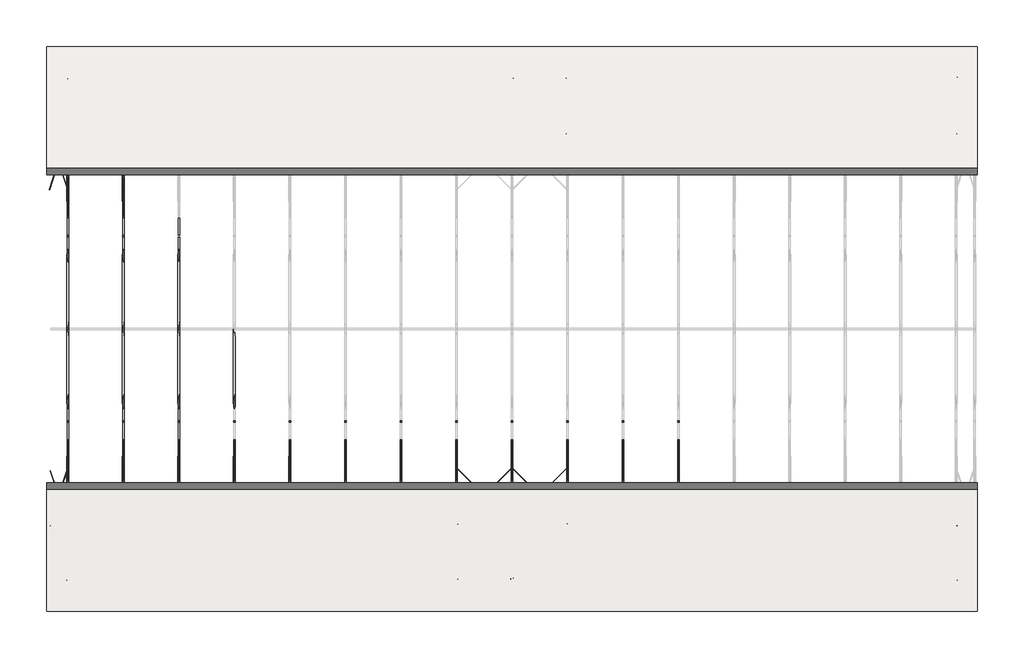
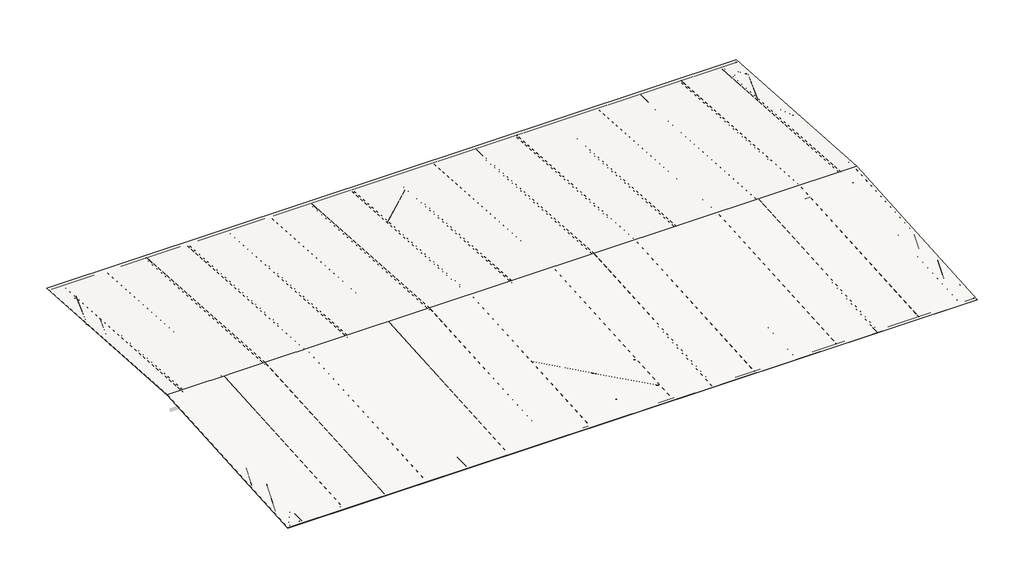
# One storey, part 1 of 3: 70 beams, 20 members, 1 roof.
"""IFC4 building model written with IfcOpenShell, lengths in millimetres."""

from ifc_helpers import new_model, si_unit, frame, origin, place, context, project, spatial, polyline, outline, extrude, transform, mapped, element, save
from components import round_bar_ef4423fe, round_bar_4b02da19, round_bar_197e2d5d, round_bar_92be63b7, round_bar_eebc96e0, round_bar_8cfec21f, round_bar_b8de9798, ub_universal_beams_ub305x165x40_7b27b8ec, ub_universal_beams_ub305x165x40_f28fc4b8, ub_universal_beams_ub305x165x40_3e4cec4f, ub_universal_beams_ub305x165x40_2a322099, round_bars_rb_1_1_2_d9c5baca, round_bars_rb_1_1_2_4c32dfd0, round_bars_rb_1_1_2_c7e7619b, round_bars_rb_1_1_2_0c6969ab, round_bars_rb_1_1_2_333c5343, round_bars_rb_1_1_2_33c0236c, round_bars_rb_1_1_2_9ddfed39, round_bars_rb_1_1_2_87f701cf, round_bars_rb_1_1_2_fe050973, round_bars_rb_1_1_2_3d12519b, round_bars_rb_1_1_2_6c636087, round_bars_rb_1_1_2_94b3812f, round_bars_rb_1_1_2_90346dbf, round_bars_rb_1_1_2_12a21a03, round_bars_rb_1_1_2_74efebb1, round_bars_rb_1_1_2_d1e83ba0

model = new_model("IFC4")

# Units and contexts
model_context = context("Model", 3, world=origin())
ifc_project = project(units=[si_unit("LENGTHUNIT", "METRE", prefix="MILLI")], contexts=[model_context])

# Site, building, storey
site = spatial("IfcSite", under=ifc_project)
building = spatial("IfcBuilding", under=site)
storey = spatial("IfcBuildingStorey", under=building, Name="Donji pojas resetke", Elevation=6000.0)

# Beams
placement = place(None, origin())
round_bar_shape = round_bar_ef4423fe(model_context)
element("IfcBeam", 1, ObjectType="Round Bar : Ispuna resetke", at=placement, inside=storey, context=model_context, shape_type="MappedRepresentation", body=[
    mapped(round_bar_shape, transform((-6936.3249405, -22966.8171651, 7151.7), x_axis=(0.0, 0.0, 1.0), y_axis=(-1.0, 0.0, 0.0), z_axis=(0.0, -1.0, 0.0))),
])
element("IfcBeam", 2, ObjectType="Round Bar : Ispuna resetke", at=placement, inside=storey, context=model_context, shape_type="MappedRepresentation", body=[
    mapped(round_bar_shape, transform((-936.3249405, -22966.8171651, 7151.7), x_axis=(0.0, 0.0, 1.0), y_axis=(-1.0, 0.0, 0.0), z_axis=(0.0, -1.0, 0.0))),
])
element("IfcBeam", 3, ObjectType="Round Bar : Ispuna resetke", at=placement, inside=storey, context=model_context, shape_type="MappedRepresentation", body=[
    mapped(round_bar_shape, transform((5063.6750595, -22966.8171651, 7151.7), x_axis=(0.0, 0.0, 1.0), y_axis=(-1.0, 0.0, 0.0), z_axis=(0.0, -1.0, 0.0))),
])
round_bar_2_shape = round_bar_4b02da19(model_context)
element("IfcBeam", 4, ObjectType="Round Bar : Ispuna resetke", at=placement, inside=storey, context=model_context, shape_type="MappedRepresentation", body=[
    mapped(round_bar_2_shape, transform((-6936.3249405, -12966.8171651, 6818.3666667), x_axis=(0.0, 0.0, 1.0), y_axis=(-1.0, 0.0, 0.0), z_axis=(0.0, -1.0, 0.0))),
])
element("IfcBeam", 5, ObjectType="Round Bar : Ispuna resetke", at=placement, inside=storey, context=model_context, shape_type="MappedRepresentation", body=[
    mapped(round_bar_2_shape, transform((-6936.3249405, -32966.8171651, 6818.3666667), x_axis=(0.0, 0.0, 1.0), y_axis=(-1.0, 0.0, 0.0), z_axis=(0.0, -1.0, 0.0))),
])
element("IfcBeam", 6, ObjectType="Round Bar : Ispuna resetke", at=placement, inside=storey, context=model_context, shape_type="MappedRepresentation", body=[
    mapped(round_bar_2_shape, transform((-936.3249405, -12966.8171651, 6818.3666667), x_axis=(0.0, 0.0, 1.0), y_axis=(-1.0, 0.0, 0.0), z_axis=(0.0, -1.0, 0.0))),
])
element("IfcBeam", 7, ObjectType="Round Bar : Ispuna resetke", at=placement, inside=storey, context=model_context, shape_type="MappedRepresentation", body=[
    mapped(round_bar_2_shape, transform((-936.3249405, -32966.8171651, 6818.3666667), x_axis=(0.0, 0.0, 1.0), y_axis=(-1.0, 0.0, 0.0), z_axis=(0.0, -1.0, 0.0))),
])
element("IfcBeam", 8, ObjectType="Round Bar : Ispuna resetke", at=placement, inside=storey, context=model_context, shape_type="MappedRepresentation", body=[
    mapped(round_bar_2_shape, transform((5063.6750595, -32966.8171651, 6818.3666667), x_axis=(0.0, 0.0, 1.0), y_axis=(-1.0, 0.0, 0.0), z_axis=(0.0, -1.0, 0.0))),
])
element("IfcBeam", 9, ObjectType="Round Bar : Ispuna resetke", at=placement, inside=storey, context=model_context, shape_type="MappedRepresentation", body=[
    mapped(round_bar_2_shape, transform((11063.6750595, -32966.8171651, 6818.3666667), x_axis=(0.0, 0.0, 1.0), y_axis=(-1.0, 0.0, 0.0), z_axis=(0.0, -1.0, 0.0))),
])
element("IfcBeam", 10, ObjectType="Round Bar : Ispuna resetke", at=placement, inside=storey, context=model_context, shape_type="MappedRepresentation", body=[
    mapped(round_bar_2_shape, transform((17063.6750595, -32966.8171651, 6818.3666667), x_axis=(0.0, 0.0, 1.0), y_axis=(-1.0, 0.0, 0.0), z_axis=(0.0, -1.0, 0.0))),
])
element("IfcBeam", 11, ObjectType="Round Bar : Ispuna resetke", at=placement, inside=storey, context=model_context, shape_type="MappedRepresentation", body=[
    mapped(round_bar_2_shape, transform((23063.6750595, -32966.8171651, 6818.3666667), x_axis=(0.0, 0.0, 1.0), y_axis=(-1.0, 0.0, 0.0), z_axis=(0.0, -1.0, 0.0))),
])
element("IfcBeam", 12, ObjectType="Round Bar : Ispuna resetke", at=placement, inside=storey, context=model_context, shape_type="MappedRepresentation", body=[
    mapped(round_bar_2_shape, transform((29063.6750595, -32966.8171651, 6818.3666667), x_axis=(0.0, 0.0, 1.0), y_axis=(-1.0, 0.0, 0.0), z_axis=(0.0, -1.0, 0.0))),
])
element("IfcBeam", 13, ObjectType="Round Bar : Ispuna resetke", at=placement, inside=storey, context=model_context, shape_type="MappedRepresentation", body=[
    mapped(round_bar_2_shape, transform((35063.6750595, -32966.8171651, 6818.3666667), x_axis=(0.0, 0.0, 1.0), y_axis=(-1.0, 0.0, 0.0), z_axis=(0.0, -1.0, 0.0))),
])
element("IfcBeam", 14, ObjectType="Round Bar : Ispuna resetke", at=placement, inside=storey, context=model_context, shape_type="MappedRepresentation", body=[
    mapped(round_bar_2_shape, transform((41063.6750595, -32966.8171651, 6818.3666667), x_axis=(0.0, 0.0, 1.0), y_axis=(-1.0, 0.0, 0.0), z_axis=(0.0, -1.0, 0.0))),
])
element("IfcBeam", 15, ObjectType="Round Bar : Ispuna resetke", at=placement, inside=storey, context=model_context, shape_type="MappedRepresentation", body=[
    mapped(round_bar_2_shape, transform((47063.6750595, -32966.8171651, 6818.3666667), x_axis=(0.0, 0.0, 1.0), y_axis=(-1.0, 0.0, 0.0), z_axis=(0.0, -1.0, 0.0))),
])
element("IfcBeam", 16, ObjectType="Round Bar : Ispuna resetke", at=placement, inside=storey, context=model_context, shape_type="MappedRepresentation", body=[
    mapped(round_bar_2_shape, transform((53063.6750595, -32966.8171651, 6818.3666667), x_axis=(0.0, 0.0, 1.0), y_axis=(-1.0, 0.0, 0.0), z_axis=(0.0, -1.0, 0.0))),
])
element("IfcBeam", 17, ObjectType="Round Bar : Ispuna resetke", at=placement, inside=storey, context=model_context, shape_type="MappedRepresentation", body=[
    mapped(round_bar_2_shape, transform((59063.6750595, -32966.8171651, 6818.3666667), x_axis=(0.0, 0.0, 1.0), y_axis=(-1.0, 0.0, 0.0), z_axis=(0.0, -1.0, 0.0))),
])
round_bar_3_shape = round_bar_197e2d5d(model_context)
element("IfcBeam", 18, ObjectType="Round Bar : Ispuna resetke", at=placement, inside=storey, context=model_context, shape_type="MappedRepresentation", body=[
    mapped(round_bar_3_shape, transform((-6936.3249405, -2966.8171651, 6485.0333333), x_axis=(0.0, 0.0, 1.0), y_axis=(-1.0, 0.0, 0.0), z_axis=(0.0, -1.0, 0.0))),
])
element("IfcBeam", 19, ObjectType="Round Bar : Ispuna resetke", at=placement, inside=storey, context=model_context, shape_type="MappedRepresentation", body=[
    mapped(round_bar_3_shape, transform((-6936.3249405, -42966.8171651, 6485.0333333), x_axis=(0.0, 0.0, 1.0), y_axis=(-1.0, 0.0, 0.0), z_axis=(0.0, -1.0, 0.0))),
])
element("IfcBeam", 20, ObjectType="Round Bar : Ispuna resetke", at=placement, inside=storey, context=model_context, shape_type="MappedRepresentation", body=[
    mapped(round_bar_3_shape, transform((-936.3249405, -2966.8171651, 6485.0333333), x_axis=(0.0, 0.0, 1.0), y_axis=(-1.0, 0.0, 0.0), z_axis=(0.0, -1.0, 0.0))),
])
element("IfcBeam", 21, ObjectType="Round Bar : Ispuna resetke", at=placement, inside=storey, context=model_context, shape_type="MappedRepresentation", body=[
    mapped(round_bar_3_shape, transform((-936.3249405, -42966.8171651, 6485.0333333), x_axis=(0.0, 0.0, 1.0), y_axis=(-1.0, 0.0, 0.0), z_axis=(0.0, -1.0, 0.0))),
])
element("IfcBeam", 22, ObjectType="Round Bar : Ispuna resetke", at=placement, inside=storey, context=model_context, shape_type="MappedRepresentation", body=[
    mapped(round_bar_3_shape, transform((5063.6750595, -42966.8171651, 6485.0333333), x_axis=(0.0, 0.0, 1.0), y_axis=(-1.0, 0.0, 0.0), z_axis=(0.0, -1.0, 0.0))),
])
element("IfcBeam", 23, ObjectType="Round Bar : Ispuna resetke", at=placement, inside=storey, context=model_context, shape_type="MappedRepresentation", body=[
    mapped(round_bar_3_shape, transform((11063.6750595, -42966.8171651, 6485.0333333), x_axis=(0.0, 0.0, 1.0), y_axis=(-1.0, 0.0, 0.0), z_axis=(0.0, -1.0, 0.0))),
])
element("IfcBeam", 24, ObjectType="Round Bar : Ispuna resetke", at=placement, inside=storey, context=model_context, shape_type="MappedRepresentation", body=[
    mapped(round_bar_3_shape, transform((17063.6750595, -42966.8171651, 6485.0333333), x_axis=(0.0, 0.0, 1.0), y_axis=(-1.0, 0.0, 0.0), z_axis=(0.0, -1.0, 0.0))),
])
element("IfcBeam", 25, ObjectType="Round Bar : Ispuna resetke", at=placement, inside=storey, context=model_context, shape_type="MappedRepresentation", body=[
    mapped(round_bar_3_shape, transform((23063.6750595, -42966.8171651, 6485.0333333), x_axis=(0.0, 0.0, 1.0), y_axis=(-1.0, 0.0, 0.0), z_axis=(0.0, -1.0, 0.0))),
])
element("IfcBeam", 26, ObjectType="Round Bar : Ispuna resetke", at=placement, inside=storey, context=model_context, shape_type="MappedRepresentation", body=[
    mapped(round_bar_3_shape, transform((29063.6750595, -42966.8171651, 6485.0333333), x_axis=(0.0, 0.0, 1.0), y_axis=(-1.0, 0.0, 0.0), z_axis=(0.0, -1.0, 0.0))),
])
element("IfcBeam", 27, ObjectType="Round Bar : Ispuna resetke", at=placement, inside=storey, context=model_context, shape_type="MappedRepresentation", body=[
    mapped(round_bar_3_shape, transform((35063.6750595, -42966.8171651, 6485.0333333), x_axis=(0.0, 0.0, 1.0), y_axis=(-1.0, 0.0, 0.0), z_axis=(0.0, -1.0, 0.0))),
])
element("IfcBeam", 28, ObjectType="Round Bar : Ispuna resetke", at=placement, inside=storey, context=model_context, shape_type="MappedRepresentation", body=[
    mapped(round_bar_3_shape, transform((41063.6750595, -42966.8171651, 6485.0333333), x_axis=(0.0, 0.0, 1.0), y_axis=(-1.0, 0.0, 0.0), z_axis=(0.0, -1.0, 0.0))),
])
element("IfcBeam", 29, ObjectType="Round Bar : Ispuna resetke", at=placement, inside=storey, context=model_context, shape_type="MappedRepresentation", body=[
    mapped(round_bar_3_shape, transform((47063.6750595, -42966.8171651, 6485.0333333), x_axis=(0.0, 0.0, 1.0), y_axis=(-1.0, 0.0, 0.0), z_axis=(0.0, -1.0, 0.0))),
])
element("IfcBeam", 30, ObjectType="Round Bar : Ispuna resetke", at=placement, inside=storey, context=model_context, shape_type="MappedRepresentation", body=[
    mapped(round_bar_3_shape, transform((53063.6750595, -42966.8171651, 6485.0333333), x_axis=(0.0, 0.0, 1.0), y_axis=(-1.0, 0.0, 0.0), z_axis=(0.0, -1.0, 0.0))),
])
element("IfcBeam", 31, ObjectType="Round Bar : Ispuna resetke", at=placement, inside=storey, context=model_context, shape_type="MappedRepresentation", body=[
    mapped(round_bar_3_shape, transform((59063.6750595, -42966.8171651, 6485.0333333), x_axis=(0.0, 0.0, 1.0), y_axis=(-1.0, 0.0, 0.0), z_axis=(0.0, -1.0, 0.0))),
])
round_bar_4_shape = round_bar_92be63b7(model_context)
element("IfcBeam", 32, ObjectType="Round Bar : Ispuna resetke", at=placement, inside=storey, context=model_context, shape_type="MappedRepresentation", body=[
    mapped(round_bar_4_shape, transform((-6936.3249405, -17966.8171651, 6818.3666667), x_axis=(0.0, -0.9912279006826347, -0.13216372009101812), y_axis=(-1.0, 0.0, 0.0), z_axis=(0.0, 0.13216372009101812, -0.9912279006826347))),
])
element("IfcBeam", 33, ObjectType="Round Bar : Ispuna resetke", at=placement, inside=storey, context=model_context, shape_type="MappedRepresentation", body=[
    mapped(round_bar_4_shape, transform((-936.3249405, -17966.8171651, 6818.3666667), x_axis=(0.0, -0.9912279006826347, -0.13216372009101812), y_axis=(-1.0, 0.0, 0.0), z_axis=(0.0, 0.13216372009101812, -0.9912279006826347))),
])
element("IfcBeam", 34, ObjectType="Round Bar : Ispuna resetke", at=placement, inside=storey, context=model_context, shape_type="MappedRepresentation", body=[
    mapped(round_bar_4_shape, transform((5063.6750595, -17966.8171651, 6818.3666667), x_axis=(0.0, -0.9912279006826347, -0.13216372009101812), y_axis=(-1.0, 0.0, 0.0), z_axis=(0.0, 0.13216372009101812, -0.9912279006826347))),
])
round_bar_5_shape = round_bar_eebc96e0(model_context)
element("IfcBeam", 35, ObjectType="Round Bar : Ispuna resetke", at=placement, inside=storey, context=model_context, shape_type="MappedRepresentation", body=[
    mapped(round_bar_5_shape, transform((-6936.3249405, -7966.8171651, 6485.0333333), x_axis=(0.0, -0.9977851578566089, -0.06651901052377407), y_axis=(-1.0, 0.0, 0.0), z_axis=(0.0, 0.06651901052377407, -0.9977851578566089))),
])
element("IfcBeam", 36, ObjectType="Round Bar : Ispuna resetke", at=placement, inside=storey, context=model_context, shape_type="MappedRepresentation", body=[
    mapped(round_bar_5_shape, transform((-936.3249405, -7966.8171651, 6485.0333333), x_axis=(0.0, -0.9977851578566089, -0.06651901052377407), y_axis=(-1.0, 0.0, 0.0), z_axis=(0.0, 0.06651901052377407, -0.9977851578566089))),
])
round_bar_6_shape = round_bar_8cfec21f(model_context)
element("IfcBeam", 37, ObjectType="Round Bar : Ispuna resetke", at=placement, inside=storey, context=model_context, shape_type="MappedRepresentation", body=[
    mapped(round_bar_6_shape, transform((-6936.3249405, -27966.8171651, 6818.3666667), x_axis=(0.0, -0.9912279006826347, 0.13216372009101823), y_axis=(-1.0, 0.0, 0.0), z_axis=(0.0, -0.13216372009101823, -0.9912279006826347))),
])
element("IfcBeam", 38, ObjectType="Round Bar : Ispuna resetke", at=placement, inside=storey, context=model_context, shape_type="MappedRepresentation", body=[
    mapped(round_bar_6_shape, transform((-936.3249405, -27966.8171651, 6818.3666667), x_axis=(0.0, -0.9912279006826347, 0.13216372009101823), y_axis=(-1.0, 0.0, 0.0), z_axis=(0.0, -0.13216372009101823, -0.9912279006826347))),
])
element("IfcBeam", 39, ObjectType="Round Bar : Ispuna resetke", at=placement, inside=storey, context=model_context, shape_type="MappedRepresentation", body=[
    mapped(round_bar_6_shape, transform((5063.6750595, -27966.8171651, 6818.3666667), x_axis=(0.0, -0.9912279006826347, 0.13216372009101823), y_axis=(-1.0, 0.0, 0.0), z_axis=(0.0, -0.13216372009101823, -0.9912279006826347))),
])
element("IfcBeam", 40, ObjectType="Round Bar : Ispuna resetke", at=placement, inside=storey, context=model_context, shape_type="MappedRepresentation", body=[
    mapped(round_bar_6_shape, transform((11063.6750595, -27966.8171651, 6818.3666667), x_axis=(0.0, -0.9912279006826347, 0.13216372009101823), y_axis=(-1.0, 0.0, 0.0), z_axis=(0.0, -0.13216372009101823, -0.9912279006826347))),
])
round_bar_7_shape = round_bar_b8de9798(model_context)
element("IfcBeam", 41, ObjectType="Round Bar : Ispuna resetke", at=placement, inside=storey, context=model_context, shape_type="MappedRepresentation", body=[
    mapped(round_bar_7_shape, transform((-6936.3249405, -37966.8171651, 6485.0333333), x_axis=(0.0, -0.9977851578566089, 0.0665190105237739), y_axis=(-1.0, 0.0, 0.0), z_axis=(0.0, -0.0665190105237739, -0.9977851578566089))),
])
element("IfcBeam", 42, ObjectType="Round Bar : Ispuna resetke", at=placement, inside=storey, context=model_context, shape_type="MappedRepresentation", body=[
    mapped(round_bar_7_shape, transform((-936.3249405, -37966.8171651, 6485.0333333), x_axis=(0.0, -0.9977851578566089, 0.0665190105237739), y_axis=(-1.0, 0.0, 0.0), z_axis=(0.0, -0.0665190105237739, -0.9977851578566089))),
])
element("IfcBeam", 43, ObjectType="Round Bar : Ispuna resetke", at=placement, inside=storey, context=model_context, shape_type="MappedRepresentation", body=[
    mapped(round_bar_7_shape, transform((5063.6750595, -37966.8171651, 6485.0333333), x_axis=(0.0, -0.9977851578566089, 0.0665190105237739), y_axis=(-1.0, 0.0, 0.0), z_axis=(0.0, -0.0665190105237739, -0.9977851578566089))),
])
element("IfcBeam", 44, ObjectType="Round Bar : Ispuna resetke", at=placement, inside=storey, context=model_context, shape_type="MappedRepresentation", body=[
    mapped(round_bar_7_shape, transform((11063.6750595, -37966.8171651, 6485.0333333), x_axis=(0.0, -0.9977851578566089, 0.0665190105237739), y_axis=(-1.0, 0.0, 0.0), z_axis=(0.0, -0.0665190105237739, -0.9977851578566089))),
])
element("IfcBeam", 45, ObjectType="Round Bar : Ispuna resetke", at=placement, inside=storey, context=model_context, shape_type="MappedRepresentation", body=[
    mapped(round_bar_7_shape, transform((17063.6750595, -37966.8171651, 6485.0333333), x_axis=(0.0, -0.9977851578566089, 0.0665190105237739), y_axis=(-1.0, 0.0, 0.0), z_axis=(0.0, -0.0665190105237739, -0.9977851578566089))),
])
element("IfcBeam", 46, ObjectType="Round Bar : Ispuna resetke", at=placement, inside=storey, context=model_context, shape_type="MappedRepresentation", body=[
    mapped(round_bar_7_shape, transform((23063.6750595, -37966.8171651, 6485.0333333), x_axis=(0.0, -0.9977851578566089, 0.0665190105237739), y_axis=(-1.0, 0.0, 0.0), z_axis=(0.0, -0.0665190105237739, -0.9977851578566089))),
])
element("IfcBeam", 47, ObjectType="Round Bar : Ispuna resetke", at=placement, inside=storey, context=model_context, shape_type="MappedRepresentation", body=[
    mapped(round_bar_7_shape, transform((29063.6750595, -37966.8171651, 6485.0333333), x_axis=(0.0, -0.9977851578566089, 0.0665190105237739), y_axis=(-1.0, 0.0, 0.0), z_axis=(0.0, -0.0665190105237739, -0.9977851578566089))),
])
element("IfcBeam", 48, ObjectType="Round Bar : Ispuna resetke", at=placement, inside=storey, context=model_context, shape_type="MappedRepresentation", body=[
    mapped(round_bar_7_shape, transform((35063.6750595, -37966.8171651, 6485.0333333), x_axis=(0.0, -0.9977851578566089, 0.0665190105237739), y_axis=(-1.0, 0.0, 0.0), z_axis=(0.0, -0.0665190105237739, -0.9977851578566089))),
])
element("IfcBeam", 49, ObjectType="Round Bar : Ispuna resetke", at=placement, inside=storey, context=model_context, shape_type="MappedRepresentation", body=[
    mapped(round_bar_7_shape, transform((41063.6750595, -37966.8171651, 6485.0333333), x_axis=(0.0, -0.9977851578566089, 0.0665190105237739), y_axis=(-1.0, 0.0, 0.0), z_axis=(0.0, -0.0665190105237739, -0.9977851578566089))),
])
element("IfcBeam", 50, ObjectType="Round Bar : Ispuna resetke", at=placement, inside=storey, context=model_context, shape_type="MappedRepresentation", body=[
    mapped(round_bar_7_shape, transform((47063.6750595, -37966.8171651, 6485.0333333), x_axis=(0.0, -0.9977851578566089, 0.0665190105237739), y_axis=(-1.0, 0.0, 0.0), z_axis=(0.0, -0.0665190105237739, -0.9977851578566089))),
])
element("IfcBeam", 51, ObjectType="Round Bar : Ispuna resetke", at=placement, inside=storey, context=model_context, shape_type="MappedRepresentation", body=[
    mapped(round_bar_7_shape, transform((53063.6750595, -37966.8171651, 6485.0333333), x_axis=(0.0, -0.9977851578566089, 0.0665190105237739), y_axis=(-1.0, 0.0, 0.0), z_axis=(0.0, -0.0665190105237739, -0.9977851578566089))),
])
element("IfcBeam", 52, ObjectType="Round Bar : Ispuna resetke", at=placement, inside=storey, context=model_context, shape_type="MappedRepresentation", body=[
    mapped(round_bar_7_shape, transform((59063.6750595, -37966.8171651, 6485.0333333), x_axis=(0.0, -0.9977851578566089, 0.0665190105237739), y_axis=(-1.0, 0.0, 0.0), z_axis=(0.0, -0.0665190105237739, -0.9977851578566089))),
])
ub_universal_beams_ub305x165x40_shape = ub_universal_beams_ub305x165x40_7b27b8ec(model_context)
element("IfcBeam", 53, ObjectType="UB-Universal Beams : UB305x165x40", at=placement, inside=storey, context=model_context, shape_type="MappedRepresentation", body=[
    mapped(ub_universal_beams_ub305x165x40_shape, transform((-6936.3249405, -22966.8171651, 6151.7), x_axis=(0.0, -1.0, 0.0), y_axis=(1.0, 0.0, 0.0), z_axis=(0.0, 0.0, 1.0))),
])
element("IfcBeam", 54, ObjectType="UB-Universal Beams : UB305x165x40", at=placement, inside=storey, context=model_context, shape_type="MappedRepresentation", body=[
    mapped(ub_universal_beams_ub305x165x40_shape, transform((-936.3249405, -22966.8171651, 6151.7), x_axis=(0.0, -1.0, 0.0), y_axis=(1.0, 0.0, 0.0), z_axis=(0.0, 0.0, 1.0))),
])
element("IfcBeam", 55, ObjectType="UB-Universal Beams : UB305x165x40", at=placement, inside=storey, context=model_context, shape_type="MappedRepresentation", body=[
    mapped(ub_universal_beams_ub305x165x40_shape, transform((5063.6750595, -22966.8171651, 6151.7), x_axis=(0.0, -1.0, 0.0), y_axis=(1.0, 0.0, 0.0), z_axis=(0.0, 0.0, 1.0))),
])
ub_universal_beams_ub305x165x40_2_shape = ub_universal_beams_ub305x165x40_f28fc4b8(model_context)
element("IfcBeam", 56, ObjectType="UB-Universal Beams : UB305x165x40", at=placement, inside=storey, context=model_context, shape_type="MappedRepresentation", body=[
    mapped(ub_universal_beams_ub305x165x40_2_shape, transform((-6936.3249405, -37966.8171651, 7151.7), x_axis=(0.0, -0.9977851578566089, -0.06651901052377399), y_axis=(1.0, 0.0, 0.0), z_axis=(0.0, -0.06651901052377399, 0.9977851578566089))),
])
element("IfcBeam", 57, ObjectType="UB-Universal Beams : UB305x165x40", at=placement, inside=storey, context=model_context, shape_type="MappedRepresentation", body=[
    mapped(ub_universal_beams_ub305x165x40_2_shape, transform((-936.3249405, -37966.8171651, 7151.7), x_axis=(0.0, -0.9977851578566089, -0.06651901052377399), y_axis=(1.0, 0.0, 0.0), z_axis=(0.0, -0.06651901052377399, 0.9977851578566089))),
])
element("IfcBeam", 58, ObjectType="UB-Universal Beams : UB305x165x40", at=placement, inside=storey, context=model_context, shape_type="MappedRepresentation", body=[
    mapped(ub_universal_beams_ub305x165x40_2_shape, transform((5063.6750595, -37966.8171651, 7151.7), x_axis=(0.0, -0.9977851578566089, -0.066519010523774), y_axis=(1.0, 0.0, 0.0), z_axis=(0.0, -0.066519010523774, 0.9977851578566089))),
])
element("IfcBeam", 59, ObjectType="UB-Universal Beams : UB305x165x40", at=placement, inside=storey, context=model_context, shape_type="MappedRepresentation", body=[
    mapped(ub_universal_beams_ub305x165x40_2_shape, transform((11063.6750595, -37966.8171651, 7151.7), x_axis=(0.0, -0.9977851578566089, -0.06651901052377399), y_axis=(1.0, 0.0, 0.0), z_axis=(0.0, -0.06651901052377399, 0.9977851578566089))),
])
element("IfcBeam", 60, ObjectType="UB-Universal Beams : UB305x165x40", at=placement, inside=storey, context=model_context, shape_type="MappedRepresentation", body=[
    mapped(ub_universal_beams_ub305x165x40_2_shape, transform((17063.6750595, -37966.8171651, 7151.7), x_axis=(0.0, -0.9977851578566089, -0.06651901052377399), y_axis=(1.0, 0.0, 0.0), z_axis=(0.0, -0.06651901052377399, 0.9977851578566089))),
])
element("IfcBeam", 61, ObjectType="UB-Universal Beams : UB305x165x40", at=placement, inside=storey, context=model_context, shape_type="MappedRepresentation", body=[
    mapped(ub_universal_beams_ub305x165x40_2_shape, transform((23063.6750595, -37966.8171651, 7151.7), x_axis=(0.0, -0.9977851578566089, -0.06651901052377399), y_axis=(1.0, 0.0, 0.0), z_axis=(0.0, -0.06651901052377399, 0.9977851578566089))),
])
element("IfcBeam", 62, ObjectType="UB-Universal Beams : UB305x165x40", at=placement, inside=storey, context=model_context, shape_type="MappedRepresentation", body=[
    mapped(ub_universal_beams_ub305x165x40_2_shape, transform((29063.6750595, -37966.8171651, 7151.7), x_axis=(0.0, -0.9977851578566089, -0.06651901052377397), y_axis=(1.0, 0.0, 0.0), z_axis=(0.0, -0.06651901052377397, 0.9977851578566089))),
])
element("IfcBeam", 63, ObjectType="UB-Universal Beams : UB305x165x40", at=placement, inside=storey, context=model_context, shape_type="MappedRepresentation", body=[
    mapped(ub_universal_beams_ub305x165x40_2_shape, transform((35063.6750595, -37966.8171651, 7151.7), x_axis=(0.0, -0.9977851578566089, -0.06651901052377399), y_axis=(1.0, 0.0, 0.0), z_axis=(0.0, -0.06651901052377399, 0.9977851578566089))),
])
element("IfcBeam", 64, ObjectType="UB-Universal Beams : UB305x165x40", at=placement, inside=storey, context=model_context, shape_type="MappedRepresentation", body=[
    mapped(ub_universal_beams_ub305x165x40_2_shape, transform((41063.6750595, -37966.8171651, 7151.7), x_axis=(0.0, -0.9977851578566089, -0.06651901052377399), y_axis=(1.0, 0.0, 0.0), z_axis=(0.0, -0.06651901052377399, 0.9977851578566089))),
])
element("IfcBeam", 65, ObjectType="UB-Universal Beams : UB305x165x40", at=placement, inside=storey, context=model_context, shape_type="MappedRepresentation", body=[
    mapped(ub_universal_beams_ub305x165x40_2_shape, transform((47063.6750595, -37966.8171651, 7151.7), x_axis=(0.0, -0.9977851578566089, -0.06651901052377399), y_axis=(1.0, 0.0, 0.0), z_axis=(0.0, -0.06651901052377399, 0.9977851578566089))),
])
element("IfcBeam", 66, ObjectType="UB-Universal Beams : UB305x165x40", at=placement, inside=storey, context=model_context, shape_type="MappedRepresentation", body=[
    mapped(ub_universal_beams_ub305x165x40_2_shape, transform((53063.6750595, -37966.8171651, 7151.7), x_axis=(0.0, -0.9977851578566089, -0.066519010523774), y_axis=(1.0, 0.0, 0.0), z_axis=(0.0, -0.066519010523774, 0.9977851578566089))),
])
element("IfcBeam", 67, ObjectType="UB-Universal Beams : UB305x165x40", at=placement, inside=storey, context=model_context, shape_type="MappedRepresentation", body=[
    mapped(ub_universal_beams_ub305x165x40_2_shape, transform((59063.6750595, -37966.8171651, 7151.7), x_axis=(0.0, -0.9977851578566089, -0.066519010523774), y_axis=(1.0, 0.0, 0.0), z_axis=(0.0, -0.066519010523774, 0.9977851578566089))),
])
ub_universal_beams_ub305x165x40_3_shape = ub_universal_beams_ub305x165x40_3e4cec4f(model_context)
element("IfcBeam", 68, ObjectType="UB-Universal Beams : UB305x165x40", at=placement, inside=storey, context=model_context, shape_type="MappedRepresentation", body=[
    mapped(ub_universal_beams_ub305x165x40_3_shape, transform((-6936.3249405, -7966.8171651, 7151.7), x_axis=(0.0, -0.9977851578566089, 0.06651901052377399), y_axis=(1.0, 0.0, 0.0), z_axis=(0.0, 0.06651901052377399, 0.9977851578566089))),
])
element("IfcBeam", 69, ObjectType="UB-Universal Beams : UB305x165x40", at=placement, inside=storey, context=model_context, shape_type="MappedRepresentation", body=[
    mapped(ub_universal_beams_ub305x165x40_3_shape, transform((-936.3249405, -7966.8171651, 7151.7), x_axis=(0.0, -0.9977851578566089, 0.06651901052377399), y_axis=(1.0, 0.0, 0.0), z_axis=(0.0, 0.06651901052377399, 0.9977851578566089))),
])
ub_universal_beams_ub305x165x40_4_shape = ub_universal_beams_ub305x165x40_2a322099(model_context)
element("IfcBeam", 70, ObjectType="UB-Universal Beams : UB305x165x40", at=placement, inside=storey, context=model_context, shape_type="MappedRepresentation", body=[
    mapped(ub_universal_beams_ub305x165x40_4_shape, transform((41063.6750595, -52966.8171651, 6151.7), x_axis=(1.0, 0.0, 0.0), y_axis=(0.0, 1.0, 0.0), z_axis=(0.0, 0.0, 1.0))),
])

# Members
round_bars_rb_1_1_2_shape = round_bars_rb_1_1_2_d9c5baca(model_context)
element("IfcMember", 71, ObjectType="Round Bars : RB 1 1/2", at=placement, inside=storey, context=model_context, shape_type="MappedRepresentation", body=[
    mapped(round_bars_rb_1_1_2_shape, transform((-7936.3249405, -51463.841901, 6251.8983509), x_axis=(-0.5530998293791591, -0.8312697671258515, -0.05541798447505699), y_axis=(0.832549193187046, -0.5539511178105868, 0.0), z_axis=(-0.030698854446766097, -0.04613819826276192, 0.9984632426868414))),
])
round_bars_rb_1_1_2_2_shape = round_bars_rb_1_1_2_4c32dfd0(model_context)
element("IfcMember", 72, ObjectType="Round Bars : RB 1 1/2", at=placement, inside=storey, context=model_context, shape_type="MappedRepresentation", body=[
    mapped(round_bars_rb_1_1_2_2_shape, transform((-7936.3249405, -51463.4278831, 6251.9259521), x_axis=(0.5529940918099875, -0.8313398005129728, -0.0554226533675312), y_axis=(0.8326195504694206, 0.5538453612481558, 0.0), z_axis=(0.03069557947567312, -0.04614598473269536, 0.9984629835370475))),
])
round_bars_rb_1_1_2_3_shape = round_bars_rb_1_1_2_c7e7619b(model_context)
element("IfcMember", 73, ObjectType="Round Bars : RB 1 1/2", at=placement, inside=storey, context=model_context, shape_type="MappedRepresentation", body=[
    mapped(round_bars_rb_1_1_2_3_shape, transform((-7936.3249405, -46967.8963369, 6551.6280552), x_axis=(-0.3173540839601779, -0.9462067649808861, -0.06308045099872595), y_axis=(0.9480949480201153, -0.31798737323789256, 0.0), z_axis=(-0.020058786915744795, -0.05980625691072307, 0.9980084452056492))),
])
round_bars_rb_1_1_2_4_shape = round_bars_rb_1_1_2_0c6969ab(model_context)
element("IfcMember", 74, ObjectType="Round Bars : RB 1 1/2", at=placement, inside=storey, context=model_context, shape_type="MappedRepresentation", body=[
    mapped(round_bars_rb_1_1_2_4_shape, transform((-7936.3249405, -46970.5628947, 6551.4502847), x_axis=(0.309016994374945, -0.948950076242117, -0.06326333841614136), y_axis=(0.9508547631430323, 0.30963723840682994, 0.0), z_axis=(0.019588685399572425, -0.06015424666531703, 0.9979968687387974))),
])
round_bars_rb_1_1_2_5_shape = round_bars_rb_1_1_2_333c5343(model_context)
element("IfcMember", 75, ObjectType="Round Bars : RB 1 1/2", at=placement, inside=storey, context=model_context, shape_type="MappedRepresentation", body=[
    mapped(round_bars_rb_1_1_2_5_shape, transform((-7936.3249405, -40959.4019551, 6952.1943473), x_axis=(-0.31630105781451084, -0.9465577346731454, -0.0631038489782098), y_axis=(0.9484480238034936, -0.31693271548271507, 0.0), z_axis=(-0.019999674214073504, -0.05985072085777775, 0.9980069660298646))),
])
round_bars_rb_1_1_2_6_shape = round_bars_rb_1_1_2_33c0236c(model_context)
element("IfcMember", 76, ObjectType="Round Bars : RB 1 1/2", at=placement, inside=storey, context=model_context, shape_type="MappedRepresentation", body=[
    mapped(round_bars_rb_1_1_2_6_shape, transform((-7936.3249405, -40957.6932214, 6952.3082629), x_axis=(0.31646367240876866, -0.9465036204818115, -0.06310024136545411), y_axis=(0.9483935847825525, 0.317095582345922, 0.0), z_axis=(0.020008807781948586, -0.05984386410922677, 0.9980071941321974))),
])
round_bars_rb_1_1_2_7_shape = round_bars_rb_1_1_2_9ddfed39(model_context)
element("IfcMember", 77, ObjectType="Round Bars : RB 1 1/2", at=placement, inside=storey, context=model_context, shape_type="MappedRepresentation", body=[
    mapped(round_bars_rb_1_1_2_7_shape, transform((38063.6750595, -46942.0218897, 6553.3530184), x_axis=(-0.7071067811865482, -0.7055406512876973, -0.04703604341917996), y_axis=(0.7063224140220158, -0.7078902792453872, 0.0), z_axis=(-0.0332963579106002, -0.033222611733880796, 0.9988931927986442))),
])
element("IfcMember", 78, ObjectType="Round Bars : RB 1 1/2", at=placement, inside=storey, context=model_context, shape_type="MappedRepresentation", body=[
    mapped(round_bars_rb_1_1_2_7_shape, transform((38063.6750595, -46961.3095952, 6552.0671713), x_axis=(0.7071067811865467, -0.7055406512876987, -0.04703604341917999), y_axis=(0.7063224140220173, 0.7078902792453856, 0.0), z_axis=(0.033296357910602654, -0.03322261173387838, 0.998893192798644))),
])
element("IfcMember", 79, ObjectType="Round Bars : RB 1 1/2", at=placement, inside=storey, context=model_context, shape_type="MappedRepresentation", body=[
    mapped(round_bars_rb_1_1_2_7_shape, transform((38063.6750595, -40960.1726387, 6952.1429684), x_axis=(-0.7071067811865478, -0.7055406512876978, -0.047036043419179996), y_axis=(0.7063224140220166, -0.7078902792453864, 0.0), z_axis=(-0.0332963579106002, -0.03322261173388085, 0.9988931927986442))),
])
element("IfcMember", 80, ObjectType="Round Bars : RB 1 1/2", at=placement, inside=storey, context=model_context, shape_type="MappedRepresentation", body=[
    mapped(round_bars_rb_1_1_2_7_shape, transform((38063.6750595, -40960.1726387, 6952.1429684), x_axis=(0.7071067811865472, -0.7055406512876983, -0.047036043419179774), y_axis=(0.7063224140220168, 0.7078902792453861, 0.0), z_axis=(0.03329635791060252, -0.0332226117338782, 0.998893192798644))),
])
round_bars_rb_1_1_2_8_shape = round_bars_rb_1_1_2_87f701cf(model_context)
element("IfcMember", 81, ObjectType="Round Bars : RB 1 1/2", at=placement, inside=storey, context=model_context, shape_type="MappedRepresentation", body=[
    mapped(round_bars_rb_1_1_2_8_shape, transform((38063.6750595, -51463.5470337, 6251.9180088), x_axis=(-0.8936441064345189, -0.4477823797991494, -0.029852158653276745), y_axis=(0.44798203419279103, -0.8940425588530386, 0.0), z_axis=(-0.026689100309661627, -0.013373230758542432, 0.9995543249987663))),
])
round_bars_rb_1_1_2_9_shape = round_bars_rb_1_1_2_fe050973(model_context)
element("IfcMember", 82, ObjectType="Round Bars : RB 1 1/2", at=placement, inside=storey, context=model_context, shape_type="MappedRepresentation", body=[
    mapped(round_bars_rb_1_1_2_9_shape, transform((38063.6750595, -51469.056244, 6251.5507281), x_axis=(0.894303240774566, -0.44647035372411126, -0.029764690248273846), y_axis=(0.4466682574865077, 0.8946996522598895, 0.0), z_axis=(0.026630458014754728, -0.013294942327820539, 0.9995569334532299))),
])
round_bars_rb_1_1_2_10_shape = round_bars_rb_1_1_2_3d12519b(model_context)
element("IfcMember", 83, ObjectType="Round Bars : RB 1 1/2", at=placement, inside=storey, context=model_context, shape_type="MappedRepresentation", body=[
    mapped(round_bars_rb_1_1_2_10_shape, transform((-7937.8249405, -4966.8171651, 6648.3), x_axis=(-0.3151708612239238, 0.9469329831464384, -0.0631288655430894), y_axis=(-0.9488255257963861, -0.3158007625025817, 0.0), z_axis=(-0.019936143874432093, 0.05989827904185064, 0.99800538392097))),
])
round_bars_rb_1_1_2_11_shape = round_bars_rb_1_1_2_6c636087(model_context)
element("IfcMember", 84, ObjectType="Round Bars : RB 1 1/2", at=placement, inside=storey, context=model_context, shape_type="MappedRepresentation", body=[
    mapped(round_bars_rb_1_1_2_11_shape, transform((44049.059195, -40963.8171651, 6951.7), x_axis=(-0.706322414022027, -0.706322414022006, -0.04708816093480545), y_axis=(0.7071067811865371, -0.707106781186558, 0.0), z_axis=(-0.033296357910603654, -0.03329635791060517, 0.9988907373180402))),
])
round_bars_rb_1_1_2_12_shape = round_bars_rb_1_1_2_94b3812f(model_context)
element("IfcMember", 85, ObjectType="Round Bars : RB 1 1/2", at=placement, inside=storey, context=model_context, shape_type="MappedRepresentation", body=[
    mapped(round_bars_rb_1_1_2_12_shape, transform((44049.059195, -40963.8171651, 6951.7), x_axis=(0.7063224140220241, -0.7063224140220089, -0.04708816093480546), y_axis=(0.7071067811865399, 0.7071067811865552, 0.0), z_axis=(0.033296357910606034, -0.03329635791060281, 0.9988907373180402))),
])
round_bars_rb_1_1_2_13_shape = round_bars_rb_1_1_2_90346dbf(model_context)
element("IfcMember", 86, ObjectType="Round Bars : RB 1 1/2", at=placement, inside=storey, context=model_context, shape_type="MappedRepresentation", body=[
    mapped(round_bars_rb_1_1_2_13_shape, transform((44049.059195, -46907.8442954, 6590.0996096), x_axis=(-0.7132068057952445, -0.6999000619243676, -0.03841816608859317), y_axis=(0.7004171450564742, -0.7137337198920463, 0.0), z_axis=(-0.02742034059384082, -0.026908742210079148, 0.9992617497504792))),
])
round_bars_rb_1_1_2_14_shape = round_bars_rb_1_1_2_12a21a03(model_context)
element("IfcMember", 87, ObjectType="Round Bars : RB 1 1/2", at=placement, inside=storey, context=model_context, shape_type="MappedRepresentation", body=[
    mapped(round_bars_rb_1_1_2_14_shape, transform((44048.9137402, -46907.7057999, 6590.2088426), x_axis=(0.713206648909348, -0.6998988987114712, -0.0384422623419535), y_axis=(0.7004166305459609, 0.713734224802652, 0.0), z_axis=(0.027437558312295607, -0.026925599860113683, 0.9992608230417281))),
])
round_bars_rb_1_1_2_15_shape = round_bars_rb_1_1_2_74efebb1(model_context)
element("IfcMember", 88, ObjectType="Round Bars : RB 1 1/2", at=placement, inside=storey, context=model_context, shape_type="MappedRepresentation", body=[
    mapped(round_bars_rb_1_1_2_15_shape, transform((-7964.4214082, -4954.1904256, 6813.0121843), x_axis=(0.30700901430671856, 0.951641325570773, -0.011146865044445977), y_axis=(-0.9517004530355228, 0.3070280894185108, 0.0), z_axis=(0.0034224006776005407, 0.010608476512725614, 0.999937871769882))),
])
round_bars_rb_1_1_2_16_shape = round_bars_rb_1_1_2_d1e83ba0(model_context)
element("IfcMember", 89, ObjectType="Round Bars : RB 1 1/2", at=placement, inside=storey, context=model_context, shape_type="MappedRepresentation", body=[
    mapped(round_bars_rb_1_1_2_16_shape, transform((44049.059195, -51409.3442954, 6290.0996096), x_axis=(-0.8867796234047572, -0.46037840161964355, -0.04090998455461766), y_axis=(0.4607641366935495, -0.8875226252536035, 0.0), z_axis=(-0.03630853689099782, -0.018849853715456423, 0.9991628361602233))),
])
element("IfcMember", 90, ObjectType="Round Bars : RB 1 1/2", at=placement, inside=storey, context=model_context, shape_type="MappedRepresentation", body=[
    mapped(round_bars_rb_1_1_2_16_shape, transform((44049.059195, -51409.3442954, 6290.0996096), x_axis=(0.886779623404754, -0.46037840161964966, -0.04090998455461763), y_axis=(0.4607641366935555, 0.8875226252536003, 0.0), z_axis=(0.0363085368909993, -0.018849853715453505, 0.9991628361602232))),
])

# Roof
element("IfcRoof", 91, ObjectType="Roof_Generic-125mm", at=placement, inside=storey, context=model_context, shape_type="SweptSolid", body=[
    extrude(outline(polyline([(-53466.8171651, 6325.6318041), (-22961.794836, 8360.9302702), (7543.2274931, 6325.6318041), (7543.2274931, 6275.5206383), (-22961.794836, 8310.8191045), (-53466.8171651, 6275.5206383), (-53466.8171651, 6325.6318041)])), frame((-9236.3249405, 0.0, 0.0), z_axis=(1.0, 0.0, 0.0), x_axis=(0.0, 1.0, 0.0)), (0.0, 0.0, 1.0), 100600.0),
])

save(model, "model.ifc")
